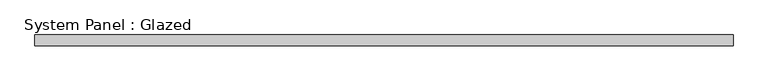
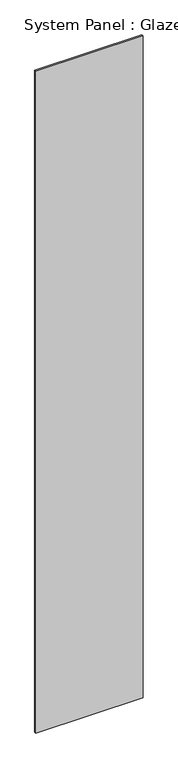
"""IFC4 building model written with IfcOpenShell, lengths in millimetres: plate geometry, System Panel : Glazed."""

from ifc_helpers import new_model, si_unit, origin, origin_with_axes, place, context, project, spatial, polyline, outline, extrude, source, transform, mapped, element, save


def system_panel_glazed_5a8f3fa4(model_context):
    return source(origin(), model_context, "Body", "SweptSolid", [
        extrude(outline(polyline([(797.5497971, -12.5), (-797.5497971, -12.5), (-797.5497971, 12.5), (797.5497971, 12.5), (797.5497971, -12.5)])), origin_with_axes(), (0.0, 0.0, 1.0), 10400.0),
    ])


if __name__ == "__main__":
    model = new_model("IFC4")
    model_context = context("Model", 3, world=origin())
    ifc_project = project(units=[si_unit("LENGTHUNIT", "METRE", prefix="MILLI")], contexts=[model_context])
    site = spatial("IfcSite", under=ifc_project)
    building = spatial("IfcBuilding", under=site)
    placement = place(None, origin())
    system_panel_glazed_shape = system_panel_glazed_5a8f3fa4(model_context)
    element("IfcPlate", 1, ObjectType="System Panel : Glazed", at=placement, inside=building, context=model_context, shape_type="MappedRepresentation", body=[
        mapped(system_panel_glazed_shape, transform((0.0, 0.0, 0.0), x_axis=(1.0, 0.0, 0.0), y_axis=(0.0, 1.0, 0.0), z_axis=(0.0, 0.0, 1.0))),
    ])
    save(model, "model.ifc")
